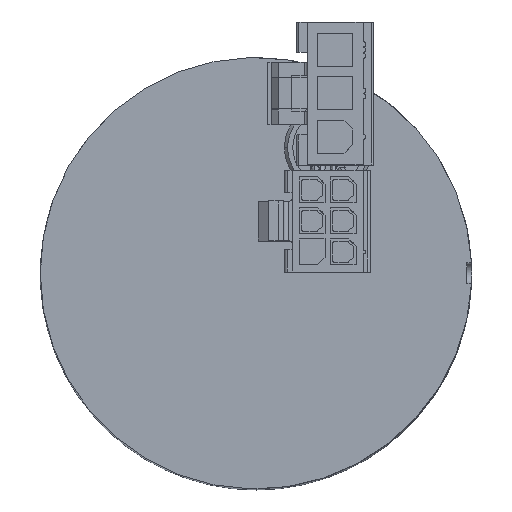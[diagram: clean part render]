
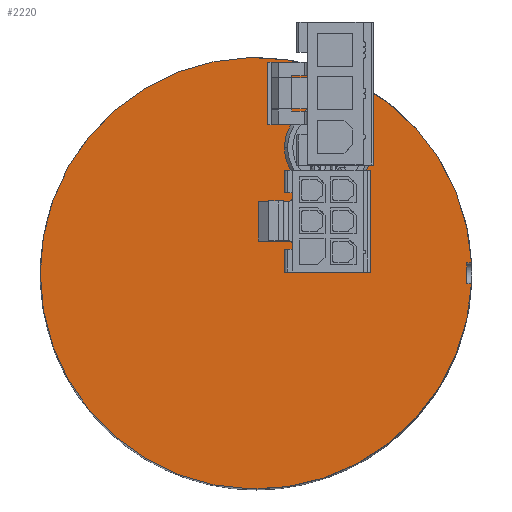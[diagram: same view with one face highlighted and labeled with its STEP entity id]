
A CAD part, top view. The second image highlights one B-rep face of the part: STEP entity #2220.
In plain terms, the highlighted planar face has unit normal (0, 0, 1).
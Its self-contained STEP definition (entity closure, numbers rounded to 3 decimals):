
#174=DIRECTION('',(-1.,0.,0.));
#175=VECTOR('',#174,0.476);
#176=CARTESIAN_POINT('',(20.826,-1.,46.));
#177=LINE('',#176,#175);
#178=DIRECTION('',(-1.,0.,0.));
#179=VECTOR('',#178,0.476);
#180=CARTESIAN_POINT('',(20.826,1.,46.));
#181=LINE('',#180,#179);
#182=DIRECTION('',(0.,1.,0.));
#183=VECTOR('',#182,2.);
#184=CARTESIAN_POINT('',(20.35,-1.,46.));
#185=LINE('',#184,#183);
#186=CARTESIAN_POINT('',(7.,12.124,46.));
#187=DIRECTION('',(0.,0.,1.));
#188=DIRECTION('',(-1.,0.,0.));
#189=AXIS2_PLACEMENT_3D('',#186,#187,#188);
#191=CARTESIAN_POINT('',(7.,12.124,46.));
#192=DIRECTION('',(0.,0.,1.));
#193=DIRECTION('',(1.,0.,0.));
#194=AXIS2_PLACEMENT_3D('',#191,#192,#193);
#252=CARTESIAN_POINT('',(0.,0.,46.));
#253=DIRECTION('',(0.,0.,1.));
#254=DIRECTION('',(0.999,0.048,0.));
#255=AXIS2_PLACEMENT_3D('',#252,#253,#254);
#1789=CARTESIAN_POINT('',(20.826,-1.,46.));
#1790=CARTESIAN_POINT('',(20.35,-1.,46.));
#1791=VERTEX_POINT('',#1789);
#1792=VERTEX_POINT('',#1790);
#1793=CARTESIAN_POINT('',(20.35,1.,46.));
#1794=VERTEX_POINT('',#1793);
#1795=CARTESIAN_POINT('',(20.826,1.,46.));
#1796=VERTEX_POINT('',#1795);
#1821=CARTESIAN_POINT('',(2.75,12.124,46.));
#1822=CARTESIAN_POINT('',(11.25,12.124,46.));
#1823=VERTEX_POINT('',#1821);
#1824=VERTEX_POINT('',#1822);
#2200=CARTESIAN_POINT('',(0.,0.,46.));
#2201=DIRECTION('',(0.,0.,-1.));
#2202=DIRECTION('',(1.,0.,0.));
#2203=AXIS2_PLACEMENT_3D('',#2200,#2201,#2202);
#2204=PLANE('',#2203);
#2206=ORIENTED_EDGE('',*,*,#2205,.F.);
#2208=ORIENTED_EDGE('',*,*,#2207,.F.);
#2210=ORIENTED_EDGE('',*,*,#2209,.T.);
#2212=ORIENTED_EDGE('',*,*,#2211,.F.);
#2213=EDGE_LOOP('',(#2206,#2208,#2210,#2212));
#2214=FACE_OUTER_BOUND('',#2213,.F.);
#2215=ORIENTED_EDGE('',*,*,#2190,.T.);
#2217=ORIENTED_EDGE('',*,*,#2216,.T.);
#2218=EDGE_LOOP('',(#2215,#2217));
#2219=FACE_BOUND('',#2218,.F.);
#2220=ADVANCED_FACE('',(#2214,#2219),#2204,.F.);
#190=CIRCLE('',#189,4.25);
#195=CIRCLE('',#194,4.25);
#256=CIRCLE('',#255,20.85);
#2190=EDGE_CURVE('',#1823,#1824,#190,.T.);
#2205=EDGE_CURVE('',#1791,#1792,#177,.T.);
#2207=EDGE_CURVE('',#1796,#1791,#256,.T.);
#2209=EDGE_CURVE('',#1796,#1794,#181,.T.);
#2211=EDGE_CURVE('',#1792,#1794,#185,.T.);
#2216=EDGE_CURVE('',#1824,#1823,#195,.T.);
